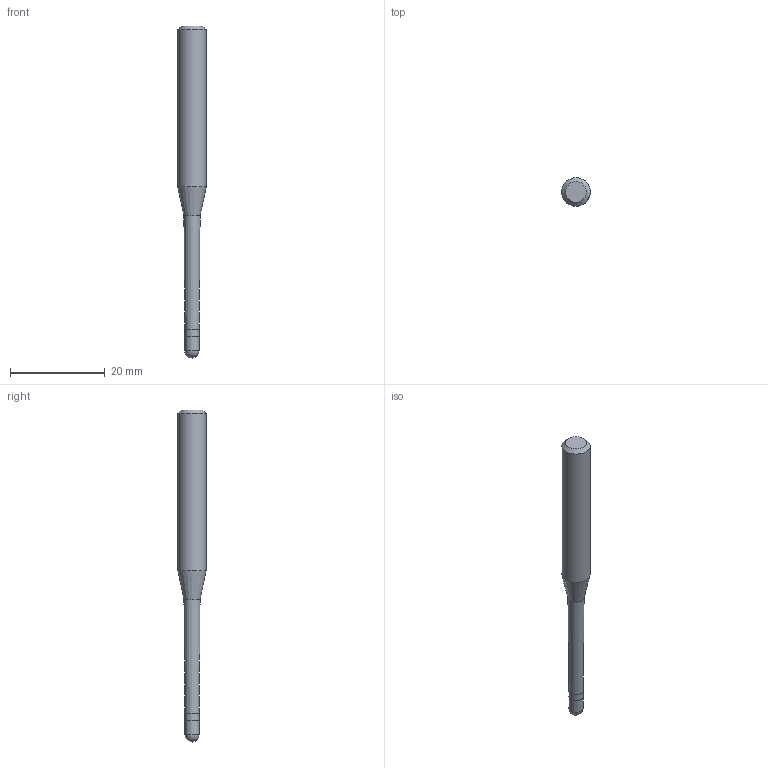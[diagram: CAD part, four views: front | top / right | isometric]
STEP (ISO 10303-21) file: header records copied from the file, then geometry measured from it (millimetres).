
FILE_DESCRIPTION((''),'2;1');
FILE_NAME('C:\Users\nsx150\AppData\Local\Temp\Mastercam 2021\E0ENTZRV18\TEMP.step','2021-09-02T09:57:13',(''),(''),'STEP Write','Mastercam 2021 ... CNC Software, Inc.','');
FILE_SCHEMA(('AUTOMOTIVE_DESIGN'));
Length unit declared in the file: millimetre
Products named in the file (1): None
Bounding box: 6 x 6 x 70 mm (x, y, z)
Volume: 1294.3 mm3; surface area: 1061.8 mm2
Topology: 2 solids, 2 shells, 10 faces, 16 edges, 9 vertices
Faces by surface type: plane 3, cylinder 3, cone 3, sphere 1
Full cylindrical faces by diameter (mm): 2.98 x1, 3 x1, 6 x1
Entity records: 232 total; most frequent: DIRECTION 40, CARTESIAN_POINT 28, AXIS2_PLACEMENT_3D 20, ORIENTED_EDGE 16, EDGE_LOOP 16, STYLED_ITEM 13, ADVANCED_FACE 10, FACE_BOUND 9
